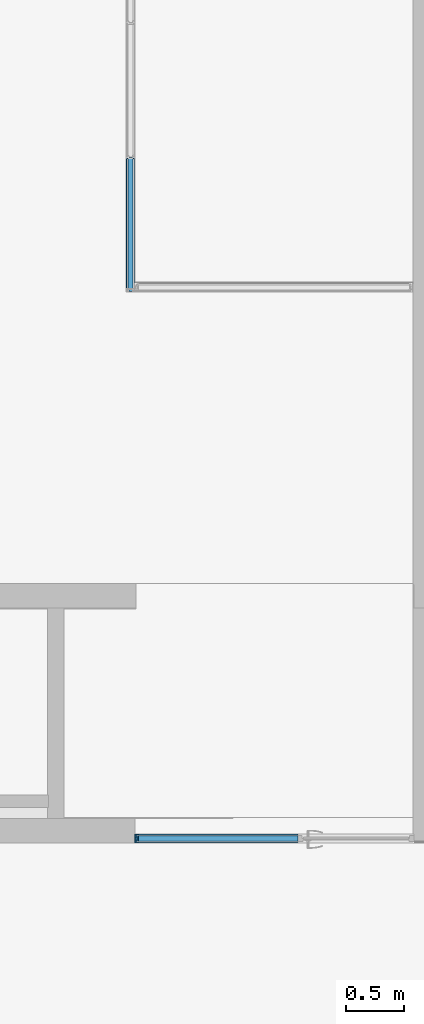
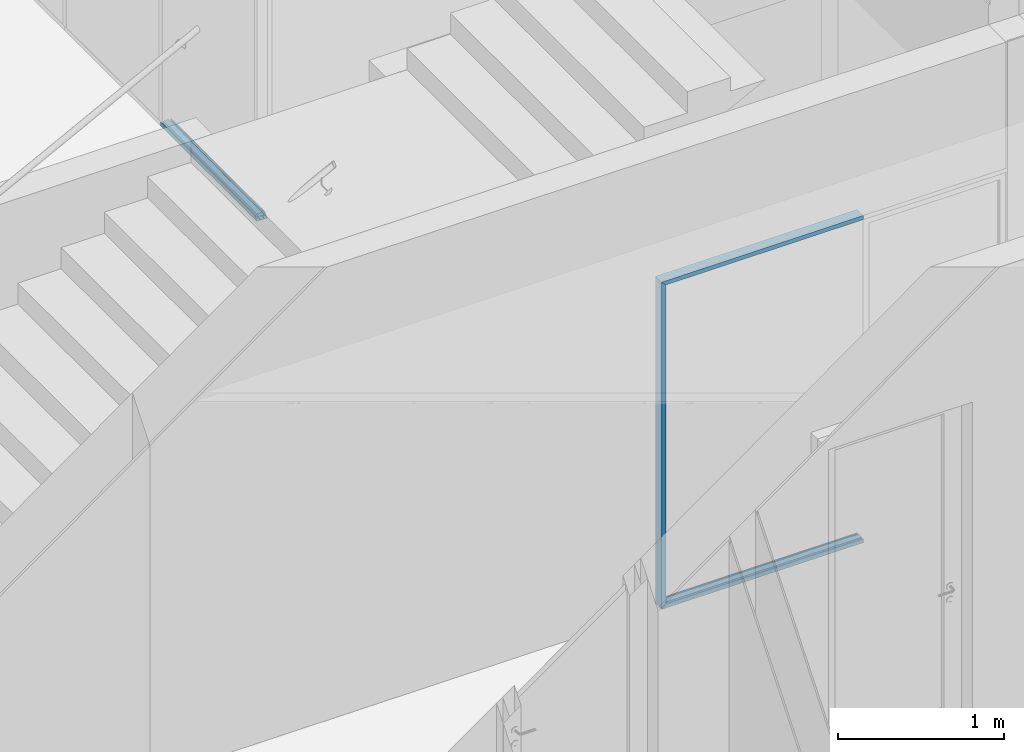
# One storey, part 22 of 79: 4 members, 2 elements without a shape of their own.
"""IFC2X3 building model written with IfcOpenShell, lengths in millimetres."""

from ifc_helpers import new_model, entity, si_unit, converted_unit, derived_unit, money_unit, direction, frame, origin_with_axes, place, context, subcontext, project, spatial, faceted_brep, material, material_list, type_object, element, aggregate, save


model = new_model("IFC2X3")

# Units and contexts
model_context = context("Model", 3, precision=0.01, world=origin_with_axes(), true_north=direction((0.0, 1.0)))
body_context = subcontext(model_context, "Body", "Model", "MODEL_VIEW")
ifc_project = project(units=[si_unit("LENGTHUNIT", "METRE", prefix="MILLI"), si_unit("AREAUNIT", "SQUARE_METRE"), si_unit("VOLUMEUNIT", "CUBIC_METRE"), converted_unit("PLANEANGLEUNIT", "DEGREE", entity("IfcPlaneAngleMeasure", 0.0174532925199), si_unit("PLANEANGLEUNIT", "RADIAN"), dimensions=[0, 0, 0, 0, 0, 0, 0]), si_unit("SOLIDANGLEUNIT", "STERADIAN"), money_unit("EUR"), converted_unit("TIMEUNIT", "Year", entity("IfcTimeMeasure", 31556926.0), si_unit("TIMEUNIT", "SECOND"), dimensions=[0, 0, 1, 0, 0, 0, 0]), si_unit("MASSUNIT", "GRAM", prefix="KILO"), si_unit("THERMODYNAMICTEMPERATUREUNIT", "DEGREE_CELSIUS"), si_unit("LUMINOUSINTENSITYUNIT", "LUMEN"), si_unit("ENERGYUNIT", "JOULE", prefix="MEGA"), derived_unit("THERMALCONDUCTANCEUNIT", [(si_unit("POWERUNIT", "WATT"), 1), (si_unit("LENGTHUNIT", "METRE"), -1), (si_unit("THERMODYNAMICTEMPERATUREUNIT", "KELVIN"), -1)]), derived_unit("SPECIFICHEATCAPACITYUNIT", [(si_unit("ENERGYUNIT", "JOULE"), 1), (si_unit("MASSUNIT", "GRAM", prefix="KILO"), -1), (si_unit("THERMODYNAMICTEMPERATUREUNIT", "KELVIN"), -1)]), derived_unit("MASSDENSITYUNIT", [(si_unit("MASSUNIT", "GRAM", prefix="KILO"), 1), (si_unit("VOLUMEUNIT", "CUBIC_METRE"), -1)])], contexts=[model_context])

# Site, building, storey
site_placement = place(None, origin_with_axes())
site = spatial("IfcSite", under=ifc_project, at=site_placement, Name="L.Koidula tn 11b", CompositionType="ELEMENT")
building_placement = place(site_placement, origin_with_axes())
building = spatial("IfcBuilding", under=site, at=building_placement, Name="Rakvere Riigigümnaasium", CompositionType="ELEMENT")
storey_placement = place(building_placement, frame((0.0, 0.0, 3720.0), z_axis=(0.0, 0.0, 1.0), x_axis=(1.0, 0.0, 0.0)))
storey = spatial("IfcBuildingStorey", under=building, at=storey_placement, Name="2.korrus +3,72", CompositionType="ELEMENT", Elevation=3720.0)

# Curtain wall, member
curtain_wall_type = type_object("IfcCurtainWallType", Name="Curtain Wall Type", PredefinedType="NOTDEFINED")
curtain_wall_1_placement = place(storey_placement, frame((44568.0000786, 20404.7190306, -3.55964617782e-05), z_axis=(0.0, 0.0, 1.0), x_axis=(1.0, 0.0, 0.0)))
curtain_wall_1 = element("IfcCurtainWall", 1, at=curtain_wall_1_placement, inside=storey, type_object=curtain_wall_type, Name="SKLF-17")
ifc_material_1 = material(Name="Klaasvill")
ifc_material_2 = material(Name="Teras RAL7012")
ifc_material_list = material_list([ifc_material_1, ifc_material_2])
member_type = type_object("IfcMemberType", Name="Boundary Frame 30 x 42", PredefinedType="MULLION")
member_1_placement = place(curtain_wall_1_placement, frame((0.0, -578.5, 0.0), z_axis=(0.0, 1.0, 0.0), x_axis=(0.0, 0.0, 1.0)))
member_1 = element("IfcMember", 2, at=member_1_placement, type_object=member_type, material=ifc_material_list, Name="SKLF-67-raam", ObjectType="MULLION", context=body_context, shape_type="Brep", body=[
    faceted_brep([(13.8499999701, 15.000000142, 13.8499999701), (13.8499999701, 15.000000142, 1157.0), (7.49999990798, 15.000000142, 1157.0), (7.49999990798, 15.000000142, 7.49999990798), (13.8499999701, 29.0161444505, 13.8499999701), (13.8499999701, 29.0161444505, 1157.0), (7.49999990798, 29.0161444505, 1157.0), (7.49999990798, 29.0161444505, 7.49999990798)], [[[0, 1, 2, 3]], [[4, 5, 1, 0]], [[2, 1, 5, 6]], [[3, 2, 6, 7]], [[3, 7, 4, 0]], [[7, 6, 5, 4]]]),
    faceted_brep([(25.004489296, 27.0307503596, 25.004489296), (25.004489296, 27.0307503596, 1157.0), (24.987414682, 29.0161444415, 1157.0), (24.987414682, 29.0161444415, 24.987414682), (25.742237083, 26.2930025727, 25.742237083), (25.742237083, 26.2930025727, 1157.0), (26.7500193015, 26.0229681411, 1157.0), (27.75780152, 26.2930025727, 1157.0), (28.4955493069, 27.0307503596, 1157.0), (28.7655837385, 28.0385325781, 1157.0), (28.5126239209, 29.0161444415, 1157.0), (28.5126239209, 29.0161444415, 28.5126239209), (28.7655837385, 28.0385325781, 28.7655837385), (28.4955493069, 27.0307503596, 28.4955493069), (27.75780152, 26.2930025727, 27.75780152), (26.7500193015, 26.0229681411, 26.7500193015)], [[[0, 1, 2, 3]], [[4, 5, 1, 0]], [[2, 1, 5, 6, 7, 8, 9, 10]], [[3, 2, 10, 11]], [[3, 11, 12, 13, 14, 15, 4, 0]], [[15, 6, 5, 4]], [[14, 7, 6, 15]], [[13, 8, 7, 14]], [[12, 9, 8, 13]], [[11, 10, 9, 12]]]),
    faceted_brep([(7.49999990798, -39.0161445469, 7.49999990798), (7.49999990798, -39.0161445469, 1157.0), (7.49999990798, -24.9999997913, 1157.0), (7.49999990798, -24.9999997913, 7.49999990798), (13.8499999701, -39.0161445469, 13.8499999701), (13.8499999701, -39.0161445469, 1157.0), (13.8499999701, -24.9999997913, 1157.0), (13.8499999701, -24.9999997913, 13.8499999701)], [[[0, 1, 2, 3]], [[4, 5, 1, 0]], [[2, 1, 5, 6]], [[3, 2, 6, 7]], [[3, 7, 4, 0]], [[7, 6, 5, 4]]]),
    faceted_brep([(24.987414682, -39.0161444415, 24.987414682), (24.987414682, -39.0161444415, 1157.0), (25.004489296, -37.0307503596, 1157.0), (25.004489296, -37.0307503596, 25.004489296), (28.5126239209, -39.0161444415, 28.5126239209), (28.5126239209, -39.0161444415, 1157.0), (28.7655837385, -38.0385325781, 1157.0), (28.4955493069, -37.0307503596, 1157.0), (27.75780152, -36.2930025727, 1157.0), (26.7500193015, -36.0229681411, 1157.0), (25.742237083, -36.2930025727, 1157.0), (25.742237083, -36.2930025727, 25.742237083), (26.7500193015, -36.0229681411, 26.7500193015), (27.75780152, -36.2930025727, 27.75780152), (28.4955493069, -37.0307503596, 28.4955493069), (28.7655837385, -38.0385325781, 28.7655837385)], [[[0, 1, 2, 3]], [[4, 5, 1, 0]], [[2, 1, 5, 6, 7, 8, 9, 10]], [[3, 2, 10, 11]], [[3, 11, 12, 13, 14, 15, 4, 0]], [[15, 6, 5, 4]], [[14, 7, 6, 15]], [[13, 8, 7, 14]], [[12, 9, 8, 13]], [[11, 10, 9, 12]]]),
    faceted_brep([(29.5999996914, -22.0000000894, 29.5999996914), (29.5999996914, -22.0000000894, 1157.0), (0.0, -22.0000000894, 1157.0), (0.0, -22.0000000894, 0.0), (29.5999996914, 12.0000000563, 29.5999996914), (29.5999996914, 12.0000000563, 1157.0), (0.0, 12.0000000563, 1157.0), (1.9999999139, 10.0000001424, 1157.0), (18.7999996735, 10.0000001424, 1157.0), (18.7999996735, -20.0000001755, 1157.0), (1.9999999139, -20.0000001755, 1157.0), (0.0, 12.0000000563, 0.0), (1.9999999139, 10.0000001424, 1.9999999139), (1.9999999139, -20.0000001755, 1.9999999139), (18.7999996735, -20.0000001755, 18.7999996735), (18.7999996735, 10.0000001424, 18.7999996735)], [[[0, 1, 2, 3]], [[4, 5, 1, 0]], [[2, 1, 5, 6], [7, 8, 9, 10]], [[3, 2, 6, 11]], [[3, 11, 4, 0], [12, 13, 14, 15]], [[11, 6, 5, 4]], [[15, 8, 7, 12]], [[14, 9, 8, 15]], [[13, 10, 9, 14]], [[12, 7, 10, 13]]]),
    faceted_brep([(29.5999996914, 12.0000000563, 29.5999996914), (29.5999996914, 12.0000000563, 1157.0), (0.0, 12.0, 1157.0), (0.0, 12.0, 0.0), (30.0000193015, 12.0, 30.0000193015), (30.0000193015, 12.0, 1157.0), (30.0000193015, 15.0, 1157.0), (13.8499999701, 15.000000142, 1157.0), (7.49999999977, 15.0, 1157.0), (7.49999999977, 29.0161444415, 1157.0), (13.8499999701, 29.0161444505, 1157.0), (24.987414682, 29.0161444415, 1157.0), (28.5126239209, 29.0161444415, 1157.0), (30.0000193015, 29.0161444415, 1157.0), (30.0000193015, 32.0, 1157.0), (0.0, 32.0, 1157.0), (0.0, 32.0, 0.0), (30.0000193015, 32.0, 30.0000193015), (30.0000193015, 29.0161444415, 30.0000193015), (28.5126239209, 29.0161444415, 28.5126239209), (24.987414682, 29.0161444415, 24.987414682), (13.8499999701, 29.0161444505, 13.8499999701), (7.49999999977, 29.0161444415, 7.49999999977), (7.49999999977, 15.0, 7.49999999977), (13.8499999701, 15.000000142, 13.8499999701), (30.0000193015, 15.0, 30.0000193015)], [[[0, 1, 2, 3]], [[4, 5, 1, 0]], [[2, 1, 5, 6, 7, 8, 9, 10, 11, 12, 13, 14, 15]], [[3, 2, 15, 16]], [[3, 16, 17, 18, 19, 20, 21, 22, 23, 24, 25, 4, 0]], [[25, 6, 5, 4]], [[24, 7, 6, 25]], [[23, 8, 7, 24]], [[22, 9, 8, 23]], [[21, 10, 9, 22]], [[20, 11, 10, 21]], [[19, 12, 11, 20]], [[18, 13, 12, 19]], [[17, 14, 13, 18]], [[16, 15, 14, 17]]]),
    faceted_brep([(0.0, -42.0, 0.0), (0.0, -42.0, 1157.0), (0.0, -22.0, 1157.0), (0.0, -22.0, 0.0), (30.0000193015, -42.0, 30.0000193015), (30.0000193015, -42.0, 1157.0), (30.0000193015, -39.0161444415, 1157.0), (28.5126239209, -39.0161444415, 1157.0), (24.987414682, -39.0161444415, 1157.0), (13.8499999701, -39.0161445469, 1157.0), (7.49999999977, -39.0161444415, 1157.0), (7.49999999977, -25.0, 1157.0), (13.8499999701, -24.9999997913, 1157.0), (30.0000193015, -25.0, 1157.0), (30.0000193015, -22.0, 1157.0), (29.5999996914, -22.0000000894, 1157.0), (29.5999996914, -22.0000000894, 29.5999996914), (30.0000193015, -22.0, 30.0000193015), (30.0000193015, -25.0, 30.0000193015), (13.8499999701, -24.9999997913, 13.8499999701), (7.49999999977, -25.0, 7.49999999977), (7.49999999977, -39.0161444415, 7.49999999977), (13.8499999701, -39.0161445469, 13.8499999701), (24.987414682, -39.0161444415, 24.987414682), (28.5126239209, -39.0161444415, 28.5126239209), (30.0000193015, -39.0161444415, 30.0000193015)], [[[0, 1, 2, 3]], [[4, 5, 1, 0]], [[2, 1, 5, 6, 7, 8, 9, 10, 11, 12, 13, 14, 15]], [[3, 2, 15, 16]], [[3, 16, 17, 18, 19, 20, 21, 22, 23, 24, 25, 4, 0]], [[25, 6, 5, 4]], [[24, 7, 6, 25]], [[23, 8, 7, 24]], [[22, 9, 8, 23]], [[21, 10, 9, 22]], [[20, 11, 10, 21]], [[19, 12, 11, 20]], [[18, 13, 12, 19]], [[17, 14, 13, 18]], [[16, 15, 14, 17]]]),
])
aggregate(curtain_wall_1, [member_1])

# Curtain wall, members
curtain_wall_2_placement = place(storey_placement, frame((45299.9999374, 15122.4785302, 0.0), z_axis=(0.0, 0.0, 1.0), x_axis=(1.0, 0.0, 0.0)))
curtain_wall_2 = element("IfcCurtainWall", 3, at=curtain_wall_2_placement, inside=storey, type_object=curtain_wall_type, Name="SKLF-11")
member_2_placement = place(curtain_wall_2_placement, frame((-700.0, 0.0, 0.0), z_axis=(1.0, 0.0, 0.0), x_axis=(0.0, 0.0, 1.0)))
member_2 = element("IfcMember", 4, at=member_2_placement, type_object=member_type, material=ifc_material_list, Name="SKLF-07-raam", ObjectType="MULLION", context=body_context, shape_type="Brep", body=[
    faceted_brep([(13.8499999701, 15.000000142, 13.8499999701), (13.8499999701, 15.000000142, 1400.0), (7.49999990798, 15.000000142, 1400.0), (7.49999990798, 15.000000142, 7.49999990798), (13.8499999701, 29.0161444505, 13.8499999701), (13.8499999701, 29.0161444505, 1400.0), (7.49999990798, 29.0161444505, 1400.0), (7.49999990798, 29.0161444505, 7.49999990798)], [[[0, 1, 2, 3]], [[4, 5, 1, 0]], [[2, 1, 5, 6]], [[3, 2, 6, 7]], [[3, 7, 4, 0]], [[7, 6, 5, 4]]]),
    faceted_brep([(25.004489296, 27.0307503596, 25.004489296), (25.004489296, 27.0307503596, 1400.0), (24.987414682, 29.0161444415, 1400.0), (24.987414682, 29.0161444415, 24.987414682), (25.742237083, 26.2930025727, 25.742237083), (25.742237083, 26.2930025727, 1400.0), (26.7500193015, 26.0229681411, 1400.0), (27.75780152, 26.2930025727, 1400.0), (28.4955493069, 27.0307503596, 1400.0), (28.7655837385, 28.0385325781, 1400.0), (28.5126239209, 29.0161444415, 1400.0), (28.5126239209, 29.0161444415, 28.5126239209), (28.7655837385, 28.0385325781, 28.7655837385), (28.4955493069, 27.0307503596, 28.4955493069), (27.75780152, 26.2930025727, 27.75780152), (26.7500193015, 26.0229681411, 26.7500193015)], [[[0, 1, 2, 3]], [[4, 5, 1, 0]], [[2, 1, 5, 6, 7, 8, 9, 10]], [[3, 2, 10, 11]], [[3, 11, 12, 13, 14, 15, 4, 0]], [[15, 6, 5, 4]], [[14, 7, 6, 15]], [[13, 8, 7, 14]], [[12, 9, 8, 13]], [[11, 10, 9, 12]]]),
    faceted_brep([(7.49999990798, -39.0161445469, 7.49999990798), (7.49999990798, -39.0161445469, 1400.0), (7.49999990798, -24.9999997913, 1400.0), (7.49999990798, -24.9999997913, 7.49999990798), (13.8499999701, -39.0161445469, 13.8499999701), (13.8499999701, -39.0161445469, 1400.0), (13.8499999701, -24.9999997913, 1400.0), (13.8499999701, -24.9999997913, 13.8499999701)], [[[0, 1, 2, 3]], [[4, 5, 1, 0]], [[2, 1, 5, 6]], [[3, 2, 6, 7]], [[3, 7, 4, 0]], [[7, 6, 5, 4]]]),
    faceted_brep([(24.987414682, -39.0161444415, 24.987414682), (24.987414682, -39.0161444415, 1400.0), (25.004489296, -37.0307503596, 1400.0), (25.004489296, -37.0307503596, 25.004489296), (28.5126239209, -39.0161444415, 28.5126239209), (28.5126239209, -39.0161444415, 1400.0), (28.7655837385, -38.0385325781, 1400.0), (28.4955493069, -37.0307503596, 1400.0), (27.75780152, -36.2930025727, 1400.0), (26.7500193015, -36.0229681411, 1400.0), (25.742237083, -36.2930025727, 1400.0), (25.742237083, -36.2930025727, 25.742237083), (26.7500193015, -36.0229681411, 26.7500193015), (27.75780152, -36.2930025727, 27.75780152), (28.4955493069, -37.0307503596, 28.4955493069), (28.7655837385, -38.0385325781, 28.7655837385)], [[[0, 1, 2, 3]], [[4, 5, 1, 0]], [[2, 1, 5, 6, 7, 8, 9, 10]], [[3, 2, 10, 11]], [[3, 11, 12, 13, 14, 15, 4, 0]], [[15, 6, 5, 4]], [[14, 7, 6, 15]], [[13, 8, 7, 14]], [[12, 9, 8, 13]], [[11, 10, 9, 12]]]),
    faceted_brep([(29.5999996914, -22.0000000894, 29.5999996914), (29.5999996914, -22.0000000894, 1400.0), (0.0, -22.0000000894, 1400.0), (0.0, -22.0000000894, 0.0), (29.5999996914, 12.0000000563, 29.5999996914), (29.5999996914, 12.0000000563, 1400.0), (0.0, 12.0000000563, 1400.0), (1.9999999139, 10.0000001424, 1400.0), (18.7999996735, 10.0000001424, 1400.0), (18.7999996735, -20.0000001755, 1400.0), (1.9999999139, -20.0000001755, 1400.0), (0.0, 12.0000000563, 0.0), (1.9999999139, 10.0000001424, 1.9999999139), (1.9999999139, -20.0000001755, 1.9999999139), (18.7999996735, -20.0000001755, 18.7999996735), (18.7999996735, 10.0000001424, 18.7999996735)], [[[0, 1, 2, 3]], [[4, 5, 1, 0]], [[2, 1, 5, 6], [7, 8, 9, 10]], [[3, 2, 6, 11]], [[3, 11, 4, 0], [12, 13, 14, 15]], [[11, 6, 5, 4]], [[15, 8, 7, 12]], [[14, 9, 8, 15]], [[13, 10, 9, 14]], [[12, 7, 10, 13]]]),
    faceted_brep([(29.5999996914, 12.0000000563, 29.5999996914), (29.5999996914, 12.0000000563, 1400.0), (0.0, 12.0, 1400.0), (0.0, 12.0, 0.0), (30.0000193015, 12.0, 30.0000193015), (30.0000193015, 12.0, 1400.0), (30.0000193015, 15.0, 1400.0), (13.8499999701, 15.000000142, 1400.0), (7.49999999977, 15.0, 1400.0), (7.49999999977, 29.0161444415, 1400.0), (13.8499999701, 29.0161444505, 1400.0), (24.987414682, 29.0161444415, 1400.0), (28.5126239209, 29.0161444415, 1400.0), (30.0000193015, 29.0161444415, 1400.0), (30.0000193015, 32.0, 1400.0), (0.0, 32.0, 1400.0), (0.0, 32.0, 0.0), (30.0000193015, 32.0, 30.0000193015), (30.0000193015, 29.0161444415, 30.0000193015), (28.5126239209, 29.0161444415, 28.5126239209), (24.987414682, 29.0161444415, 24.987414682), (13.8499999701, 29.0161444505, 13.8499999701), (7.49999999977, 29.0161444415, 7.49999999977), (7.49999999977, 15.0, 7.49999999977), (13.8499999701, 15.000000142, 13.8499999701), (30.0000193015, 15.0, 30.0000193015)], [[[0, 1, 2, 3]], [[4, 5, 1, 0]], [[2, 1, 5, 6, 7, 8, 9, 10, 11, 12, 13, 14, 15]], [[3, 2, 15, 16]], [[3, 16, 17, 18, 19, 20, 21, 22, 23, 24, 25, 4, 0]], [[25, 6, 5, 4]], [[24, 7, 6, 25]], [[23, 8, 7, 24]], [[22, 9, 8, 23]], [[21, 10, 9, 22]], [[20, 11, 10, 21]], [[19, 12, 11, 20]], [[18, 13, 12, 19]], [[17, 14, 13, 18]], [[16, 15, 14, 17]]]),
    faceted_brep([(0.0, -42.0, 0.0), (0.0, -42.0, 1400.0), (0.0, -22.0, 1400.0), (0.0, -22.0, 0.0), (30.0000193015, -42.0, 30.0000193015), (30.0000193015, -42.0, 1400.0), (30.0000193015, -39.0161444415, 1400.0), (28.5126239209, -39.0161444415, 1400.0), (24.987414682, -39.0161444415, 1400.0), (13.8499999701, -39.0161445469, 1400.0), (7.49999999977, -39.0161444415, 1400.0), (7.49999999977, -25.0, 1400.0), (13.8499999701, -24.9999997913, 1400.0), (30.0000193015, -25.0, 1400.0), (30.0000193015, -22.0, 1400.0), (29.5999996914, -22.0000000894, 1400.0), (29.5999996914, -22.0000000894, 29.5999996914), (30.0000193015, -22.0, 30.0000193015), (30.0000193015, -25.0, 30.0000193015), (13.8499999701, -24.9999997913, 13.8499999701), (7.49999999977, -25.0, 7.49999999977), (7.49999999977, -39.0161444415, 7.49999999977), (13.8499999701, -39.0161445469, 13.8499999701), (24.987414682, -39.0161444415, 24.987414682), (28.5126239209, -39.0161444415, 28.5126239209), (30.0000193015, -39.0161444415, 30.0000193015)], [[[0, 1, 2, 3]], [[4, 5, 1, 0]], [[2, 1, 5, 6, 7, 8, 9, 10, 11, 12, 13, 14, 15]], [[3, 2, 15, 16]], [[3, 16, 17, 18, 19, 20, 21, 22, 23, 24, 25, 4, 0]], [[25, 6, 5, 4]], [[24, 7, 6, 25]], [[23, 8, 7, 24]], [[22, 9, 8, 23]], [[21, 10, 9, 22]], [[20, 11, 10, 21]], [[19, 12, 11, 20]], [[18, 13, 12, 19]], [[17, 14, 13, 18]], [[16, 15, 14, 17]]]),
])
member_3_placement = place(curtain_wall_2_placement, frame((-700.0, 0.0, 2400.00001162), z_axis=(1.0, 0.0, 0.0), x_axis=(0.0, 0.0, 1.0)))
member_3 = element("IfcMember", 5, at=member_3_placement, type_object=member_type, material=ifc_material_list, Name="SKLF-11-raam", ObjectType="MULLION", context=body_context, shape_type="Brep", body=[
    faceted_brep([(-13.8499999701, 15.000000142, 13.8499999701), (-7.49999990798, 15.000000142, 7.49999990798), (-7.49999990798, 15.000000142, 1400.0), (-13.8499999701, 15.000000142, 1400.0), (-13.8499999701, 29.0161444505, 13.8499999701), (-7.49999990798, 29.0161444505, 7.49999990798), (-7.49999990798, 29.0161444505, 1400.0), (-13.8499999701, 29.0161444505, 1400.0)], [[[0, 1, 2, 3]], [[1, 0, 4, 5]], [[1, 5, 6, 2]], [[2, 6, 7, 3]], [[4, 0, 3, 7]], [[5, 4, 7, 6]]]),
    faceted_brep([(-25.004489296, 27.0307503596, 25.004489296), (-24.987414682, 29.0161444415, 24.987414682), (-24.987414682, 29.0161444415, 1400.0), (-25.004489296, 27.0307503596, 1400.0), (-25.742237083, 26.2930025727, 25.742237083), (-26.7500193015, 26.0229681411, 26.7500193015), (-27.75780152, 26.2930025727, 27.75780152), (-28.4955493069, 27.0307503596, 28.4955493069), (-28.7655837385, 28.0385325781, 28.7655837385), (-28.5126239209, 29.0161444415, 28.5126239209), (-28.5126239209, 29.0161444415, 1400.0), (-28.7655837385, 28.0385325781, 1400.0), (-28.4955493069, 27.0307503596, 1400.0), (-27.75780152, 26.2930025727, 1400.0), (-26.7500193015, 26.0229681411, 1400.0), (-25.742237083, 26.2930025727, 1400.0)], [[[0, 1, 2, 3]], [[1, 0, 4, 5, 6, 7, 8, 9]], [[1, 9, 10, 2]], [[2, 10, 11, 12, 13, 14, 15, 3]], [[4, 0, 3, 15]], [[5, 4, 15, 14]], [[6, 5, 14, 13]], [[7, 6, 13, 12]], [[8, 7, 12, 11]], [[9, 8, 11, 10]]]),
    faceted_brep([(-7.49999990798, -39.0161445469, 7.49999990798), (-7.49999990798, -24.9999997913, 7.49999990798), (-7.49999990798, -24.9999997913, 1400.0), (-7.49999990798, -39.0161445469, 1400.0), (-13.8499999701, -39.0161445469, 13.8499999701), (-13.8499999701, -24.9999997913, 13.8499999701), (-13.8499999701, -24.9999997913, 1400.0), (-13.8499999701, -39.0161445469, 1400.0)], [[[0, 1, 2, 3]], [[1, 0, 4, 5]], [[1, 5, 6, 2]], [[2, 6, 7, 3]], [[4, 0, 3, 7]], [[5, 4, 7, 6]]]),
    faceted_brep([(-24.987414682, -39.0161444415, 24.987414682), (-25.004489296, -37.0307503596, 25.004489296), (-25.004489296, -37.0307503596, 1400.0), (-24.987414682, -39.0161444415, 1400.0), (-28.5126239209, -39.0161444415, 28.5126239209), (-28.7655837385, -38.0385325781, 28.7655837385), (-28.4955493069, -37.0307503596, 28.4955493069), (-27.75780152, -36.2930025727, 27.75780152), (-26.7500193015, -36.0229681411, 26.7500193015), (-25.742237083, -36.2930025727, 25.742237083), (-25.742237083, -36.2930025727, 1400.0), (-26.7500193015, -36.0229681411, 1400.0), (-27.75780152, -36.2930025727, 1400.0), (-28.4955493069, -37.0307503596, 1400.0), (-28.7655837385, -38.0385325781, 1400.0), (-28.5126239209, -39.0161444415, 1400.0)], [[[0, 1, 2, 3]], [[1, 0, 4, 5, 6, 7, 8, 9]], [[1, 9, 10, 2]], [[2, 10, 11, 12, 13, 14, 15, 3]], [[4, 0, 3, 15]], [[5, 4, 15, 14]], [[6, 5, 14, 13]], [[7, 6, 13, 12]], [[8, 7, 12, 11]], [[9, 8, 11, 10]]]),
    faceted_brep([(-29.5999996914, -22.0000000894, 29.5999996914), (0.0, -22.0000000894, 0.0), (0.0, -22.0000000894, 1400.0), (-29.5999996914, -22.0000000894, 1400.0), (-29.5999996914, 12.0000000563, 29.5999996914), (0.0, 12.0000000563, 0.0), (-1.9999999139, 10.0000001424, 1.9999999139), (-18.7999996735, 10.0000001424, 18.7999996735), (-18.7999996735, -20.0000001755, 18.7999996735), (-1.9999999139, -20.0000001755, 1.9999999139), (0.0, 12.0000000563, 1400.0), (-29.5999996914, 12.0000000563, 1400.0), (-1.9999999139, 10.0000001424, 1400.0), (-1.9999999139, -20.0000001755, 1400.0), (-18.7999996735, -20.0000001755, 1400.0), (-18.7999996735, 10.0000001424, 1400.0)], [[[0, 1, 2, 3]], [[1, 0, 4, 5], [6, 7, 8, 9]], [[1, 5, 10, 2]], [[2, 10, 11, 3], [12, 13, 14, 15]], [[4, 0, 3, 11]], [[5, 4, 11, 10]], [[7, 6, 12, 15]], [[8, 7, 15, 14]], [[9, 8, 14, 13]], [[6, 9, 13, 12]]]),
    faceted_brep([(-29.5999996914, 12.0000000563, 29.5999996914), (0.0, 12.0, 0.0), (0.0, 12.0, 1400.0), (-29.5999996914, 12.0000000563, 1400.0), (-30.0000193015, 12.0, 30.0000193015), (-30.0000193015, 15.0, 30.0000193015), (-13.8499999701, 15.000000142, 13.8499999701), (-7.49999999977, 15.0, 7.49999999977), (-7.49999999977, 29.0161444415, 7.49999999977), (-13.8499999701, 29.0161444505, 13.8499999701), (-24.987414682, 29.0161444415, 24.987414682), (-28.5126239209, 29.0161444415, 28.5126239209), (-30.0000193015, 29.0161444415, 30.0000193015), (-30.0000193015, 32.0, 30.0000193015), (0.0, 32.0, 0.0), (0.0, 32.0, 1400.0), (-30.0000193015, 32.0, 1400.0), (-30.0000193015, 29.0161444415, 1400.0), (-28.5126239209, 29.0161444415, 1400.0), (-24.987414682, 29.0161444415, 1400.0), (-13.8499999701, 29.0161444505, 1400.0), (-7.49999999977, 29.0161444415, 1400.0), (-7.49999999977, 15.0, 1400.0), (-13.8499999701, 15.000000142, 1400.0), (-30.0000193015, 15.0, 1400.0), (-30.0000193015, 12.0, 1400.0)], [[[0, 1, 2, 3]], [[1, 0, 4, 5, 6, 7, 8, 9, 10, 11, 12, 13, 14]], [[1, 14, 15, 2]], [[2, 15, 16, 17, 18, 19, 20, 21, 22, 23, 24, 25, 3]], [[4, 0, 3, 25]], [[5, 4, 25, 24]], [[6, 5, 24, 23]], [[7, 6, 23, 22]], [[8, 7, 22, 21]], [[9, 8, 21, 20]], [[10, 9, 20, 19]], [[11, 10, 19, 18]], [[12, 11, 18, 17]], [[13, 12, 17, 16]], [[14, 13, 16, 15]]]),
    faceted_brep([(0.0, -42.0, 0.0), (0.0, -22.0, 0.0), (0.0, -22.0, 1400.0), (0.0, -42.0, 1400.0), (-30.0000193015, -42.0, 30.0000193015), (-30.0000193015, -39.0161444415, 30.0000193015), (-28.5126239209, -39.0161444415, 28.5126239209), (-24.987414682, -39.0161444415, 24.987414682), (-13.8499999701, -39.0161445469, 13.8499999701), (-7.49999999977, -39.0161444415, 7.49999999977), (-7.49999999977, -25.0, 7.49999999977), (-13.8499999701, -24.9999997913, 13.8499999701), (-30.0000193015, -25.0, 30.0000193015), (-30.0000193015, -22.0, 30.0000193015), (-29.5999996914, -22.0000000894, 29.5999996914), (-29.5999996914, -22.0000000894, 1400.0), (-30.0000193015, -22.0, 1400.0), (-30.0000193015, -25.0, 1400.0), (-13.8499999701, -24.9999997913, 1400.0), (-7.49999999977, -25.0, 1400.0), (-7.49999999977, -39.0161444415, 1400.0), (-13.8499999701, -39.0161445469, 1400.0), (-24.987414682, -39.0161444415, 1400.0), (-28.5126239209, -39.0161444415, 1400.0), (-30.0000193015, -39.0161444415, 1400.0), (-30.0000193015, -42.0, 1400.0)], [[[0, 1, 2, 3]], [[1, 0, 4, 5, 6, 7, 8, 9, 10, 11, 12, 13, 14]], [[1, 14, 15, 2]], [[2, 15, 16, 17, 18, 19, 20, 21, 22, 23, 24, 25, 3]], [[4, 0, 3, 25]], [[5, 4, 25, 24]], [[6, 5, 24, 23]], [[7, 6, 23, 22]], [[8, 7, 22, 21]], [[9, 8, 21, 20]], [[10, 9, 20, 19]], [[11, 10, 19, 18]], [[12, 11, 18, 17]], [[13, 12, 17, 16]], [[14, 13, 16, 15]]]),
])
member_4_placement = place(curtain_wall_2_placement, frame((-700.0, 0.0, 0.0), z_axis=(0.0, 0.0, 1.0), x_axis=(-1.0, 0.0, 0.0)))
member_4 = element("IfcMember", 6, at=member_4_placement, type_object=member_type, material=ifc_material_list, Name="SKLF-12-raam", ObjectType="MULLION", context=body_context, shape_type="Brep", body=[
    faceted_brep([(-13.8499999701, 15.000000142, 13.8499999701), (-7.49999990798, 15.000000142, 7.49999990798), (-7.49999990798, 15.000000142, 2392.50001171), (-13.8499999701, 15.000000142, 2386.15001165), (-13.8499999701, 29.0161444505, 13.8499999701), (-7.49999990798, 29.0161444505, 7.49999990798), (-7.49999990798, 29.0161444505, 2392.50001171), (-13.8499999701, 29.0161444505, 2386.15001165)], [[[0, 1, 2, 3]], [[1, 0, 4, 5]], [[1, 5, 6, 2]], [[2, 6, 7, 3]], [[4, 0, 3, 7]], [[5, 4, 7, 6]]]),
    faceted_brep([(-25.004489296, 27.0307503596, 25.004489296), (-24.987414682, 29.0161444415, 24.987414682), (-24.987414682, 29.0161444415, 2375.01259694), (-25.004489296, 27.0307503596, 2374.99552233), (-25.742237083, 26.2930025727, 25.742237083), (-26.7500193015, 26.0229681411, 26.7500193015), (-27.75780152, 26.2930025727, 27.75780152), (-28.4955493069, 27.0307503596, 28.4955493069), (-28.7655837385, 28.0385325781, 28.7655837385), (-28.5126239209, 29.0161444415, 28.5126239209), (-28.5126239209, 29.0161444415, 2371.4873877), (-28.7655837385, 28.0385325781, 2371.23442788), (-28.4955493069, 27.0307503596, 2371.50446232), (-27.75780152, 26.2930025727, 2372.2422101), (-26.7500193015, 26.0229681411, 2373.24999232), (-25.742237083, 26.2930025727, 2374.25777454)], [[[0, 1, 2, 3]], [[1, 0, 4, 5, 6, 7, 8, 9]], [[1, 9, 10, 2]], [[2, 10, 11, 12, 13, 14, 15, 3]], [[4, 0, 3, 15]], [[5, 4, 15, 14]], [[6, 5, 14, 13]], [[7, 6, 13, 12]], [[8, 7, 12, 11]], [[9, 8, 11, 10]]]),
    faceted_brep([(-7.49999990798, -39.0161445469, 7.49999990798), (-7.49999990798, -24.9999997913, 7.49999990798), (-7.49999990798, -24.9999997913, 2392.50001171), (-7.49999990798, -39.0161445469, 2392.50001171), (-13.8499999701, -39.0161445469, 13.8499999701), (-13.8499999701, -24.9999997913, 13.8499999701), (-13.8499999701, -24.9999997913, 2386.15001165), (-13.8499999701, -39.0161445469, 2386.15001165)], [[[0, 1, 2, 3]], [[1, 0, 4, 5]], [[1, 5, 6, 2]], [[2, 6, 7, 3]], [[4, 0, 3, 7]], [[5, 4, 7, 6]]]),
    faceted_brep([(-24.987414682, -39.0161444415, 24.987414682), (-25.004489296, -37.0307503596, 25.004489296), (-25.004489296, -37.0307503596, 2374.99552233), (-24.987414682, -39.0161444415, 2375.01259694), (-28.5126239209, -39.0161444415, 28.5126239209), (-28.7655837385, -38.0385325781, 28.7655837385), (-28.4955493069, -37.0307503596, 28.4955493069), (-27.75780152, -36.2930025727, 27.75780152), (-26.7500193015, -36.0229681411, 26.7500193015), (-25.742237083, -36.2930025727, 25.742237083), (-25.742237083, -36.2930025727, 2374.25777454), (-26.7500193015, -36.0229681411, 2373.24999232), (-27.75780152, -36.2930025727, 2372.2422101), (-28.4955493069, -37.0307503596, 2371.50446232), (-28.7655837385, -38.0385325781, 2371.23442788), (-28.5126239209, -39.0161444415, 2371.4873877)], [[[0, 1, 2, 3]], [[1, 0, 4, 5, 6, 7, 8, 9]], [[1, 9, 10, 2]], [[2, 10, 11, 12, 13, 14, 15, 3]], [[4, 0, 3, 15]], [[5, 4, 15, 14]], [[6, 5, 14, 13]], [[7, 6, 13, 12]], [[8, 7, 12, 11]], [[9, 8, 11, 10]]]),
    faceted_brep([(-29.5999996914, -22.0000000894, 29.5999996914), (0.0, -22.0000000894, 0.0), (0.0, -22.0000000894, 2400.00001162), (-29.5999996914, -22.0000000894, 2370.40001193), (-29.5999996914, 12.0000000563, 29.5999996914), (0.0, 12.0000000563, 0.0), (-1.9999999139, 10.0000001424, 1.9999999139), (-18.7999996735, 10.0000001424, 18.7999996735), (-18.7999996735, -20.0000001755, 18.7999996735), (-1.9999999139, -20.0000001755, 1.9999999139), (0.0, 12.0000000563, 2400.00001162), (-29.5999996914, 12.0000000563, 2370.40001193), (-1.9999999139, 10.0000001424, 2398.00001171), (-1.9999999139, -20.0000001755, 2398.00001171), (-18.7999996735, -20.0000001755, 2381.20001195), (-18.7999996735, 10.0000001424, 2381.20001195)], [[[0, 1, 2, 3]], [[1, 0, 4, 5], [6, 7, 8, 9]], [[1, 5, 10, 2]], [[2, 10, 11, 3], [12, 13, 14, 15]], [[4, 0, 3, 11]], [[5, 4, 11, 10]], [[7, 6, 12, 15]], [[8, 7, 15, 14]], [[9, 8, 14, 13]], [[6, 9, 13, 12]]]),
    faceted_brep([(-29.5999996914, 12.0000000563, 29.5999996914), (0.0, 12.0, 0.0), (0.0, 12.0, 2400.00001162), (-29.5999996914, 12.0000000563, 2370.40001193), (-30.0000193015, 12.0, 30.0000193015), (-30.0000193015, 15.0, 30.0000193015), (-13.8499999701, 15.000000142, 13.8499999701), (-7.49999999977, 15.0, 7.49999999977), (-7.49999999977, 29.0161444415, 7.49999999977), (-13.8499999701, 29.0161444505, 13.8499999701), (-24.987414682, 29.0161444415, 24.987414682), (-28.5126239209, 29.0161444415, 28.5126239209), (-30.0000193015, 29.0161444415, 30.0000193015), (-30.0000193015, 32.0, 30.0000193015), (0.0, 32.0, 0.0), (0.0, 32.0, 2400.00001162), (-30.0000193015, 32.0, 2369.99999232), (-30.0000193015, 29.0161444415, 2369.99999232), (-28.5126239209, 29.0161444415, 2371.4873877), (-24.987414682, 29.0161444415, 2375.01259694), (-13.8499999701, 29.0161444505, 2386.15001165), (-7.49999999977, 29.0161444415, 2392.50001162), (-7.49999999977, 15.0, 2392.50001162), (-13.8499999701, 15.000000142, 2386.15001165), (-30.0000193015, 15.0, 2369.99999232), (-30.0000193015, 12.0, 2369.99999232)], [[[0, 1, 2, 3]], [[1, 0, 4, 5, 6, 7, 8, 9, 10, 11, 12, 13, 14]], [[1, 14, 15, 2]], [[2, 15, 16, 17, 18, 19, 20, 21, 22, 23, 24, 25, 3]], [[4, 0, 3, 25]], [[5, 4, 25, 24]], [[6, 5, 24, 23]], [[7, 6, 23, 22]], [[8, 7, 22, 21]], [[9, 8, 21, 20]], [[10, 9, 20, 19]], [[11, 10, 19, 18]], [[12, 11, 18, 17]], [[13, 12, 17, 16]], [[14, 13, 16, 15]]]),
    faceted_brep([(0.0, -42.0, 0.0), (0.0, -22.0, 0.0), (0.0, -22.0, 2400.00001162), (0.0, -42.0, 2400.00001162), (-30.0000193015, -42.0, 30.0000193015), (-30.0000193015, -39.0161444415, 30.0000193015), (-28.5126239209, -39.0161444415, 28.5126239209), (-24.987414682, -39.0161444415, 24.987414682), (-13.8499999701, -39.0161445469, 13.8499999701), (-7.49999999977, -39.0161444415, 7.49999999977), (-7.49999999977, -25.0, 7.49999999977), (-13.8499999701, -24.9999997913, 13.8499999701), (-30.0000193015, -25.0, 30.0000193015), (-30.0000193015, -22.0, 30.0000193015), (-29.5999996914, -22.0000000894, 29.5999996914), (-29.5999996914, -22.0000000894, 2370.40001193), (-30.0000193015, -22.0, 2369.99999232), (-30.0000193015, -25.0, 2369.99999232), (-13.8499999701, -24.9999997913, 2386.15001165), (-7.49999999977, -25.0, 2392.50001162), (-7.49999999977, -39.0161444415, 2392.50001162), (-13.8499999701, -39.0161445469, 2386.15001165), (-24.987414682, -39.0161444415, 2375.01259694), (-28.5126239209, -39.0161444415, 2371.4873877), (-30.0000193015, -39.0161444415, 2369.99999232), (-30.0000193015, -42.0, 2369.99999232)], [[[0, 1, 2, 3]], [[1, 0, 4, 5, 6, 7, 8, 9, 10, 11, 12, 13, 14]], [[1, 14, 15, 2]], [[2, 15, 16, 17, 18, 19, 20, 21, 22, 23, 24, 25, 3]], [[4, 0, 3, 25]], [[5, 4, 25, 24]], [[6, 5, 24, 23]], [[7, 6, 23, 22]], [[8, 7, 22, 21]], [[9, 8, 21, 20]], [[10, 9, 20, 19]], [[11, 10, 19, 18]], [[12, 11, 18, 17]], [[13, 12, 17, 16]], [[14, 13, 16, 15]]]),
])
aggregate(curtain_wall_2, [member_2, member_3, member_4])

save(model, "model.ifc")
